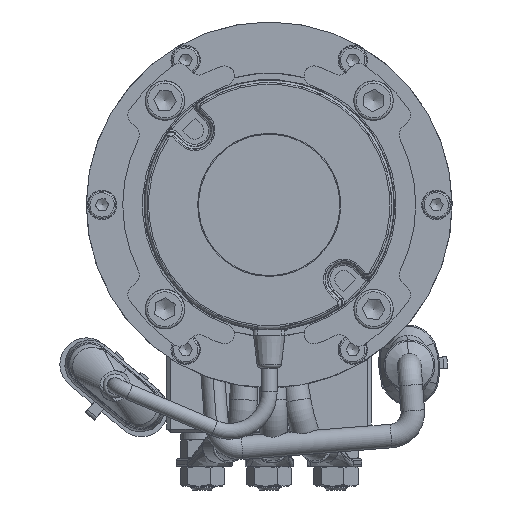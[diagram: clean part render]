
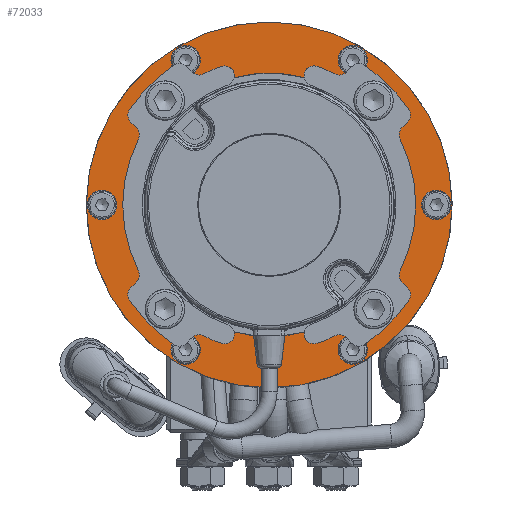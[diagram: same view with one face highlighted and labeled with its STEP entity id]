
A CAD part, left-side view. The second image highlights one B-rep face of the part: STEP entity #72033.
In plain terms, the highlighted planar face has unit normal (-1, 0, 0).
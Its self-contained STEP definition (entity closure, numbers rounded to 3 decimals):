
#825=FACE_BOUND('',#10804,.T.);
#826=FACE_BOUND('',#10805,.T.);
#827=FACE_BOUND('',#10806,.T.);
#828=FACE_BOUND('',#10807,.T.);
#829=FACE_BOUND('',#10808,.T.);
#830=FACE_BOUND('',#10809,.T.);
#831=FACE_BOUND('',#10810,.T.);
#832=FACE_BOUND('',#10811,.T.);
#833=FACE_BOUND('',#10812,.T.);
#834=FACE_BOUND('',#10813,.T.);
#835=FACE_BOUND('',#10814,.T.);
#2414=PLANE('',#78072);
#6624=FACE_OUTER_BOUND('',#10803,.T.);
#10803=EDGE_LOOP('',(#57789));
#10804=EDGE_LOOP('',(#57790));
#10805=EDGE_LOOP('',(#57791));
#10806=EDGE_LOOP('',(#57792));
#10807=EDGE_LOOP('',(#57793));
#10808=EDGE_LOOP('',(#57794));
#10809=EDGE_LOOP('',(#57795));
#10810=EDGE_LOOP('',(#57796));
#10811=EDGE_LOOP('',(#57797));
#10812=EDGE_LOOP('',(#57798));
#10813=EDGE_LOOP('',(#57799));
#10814=EDGE_LOOP('',(#57800));
#13140=CIRCLE('',#73917,3.);
#13273=CIRCLE('',#74276,3.);
#13406=CIRCLE('',#74635,3.);
#13587=CIRCLE('',#75043,33.5);
#15201=CIRCLE('',#78073,46.5);
#15202=CIRCLE('',#78074,3.);
#15203=CIRCLE('',#78075,3.75);
#15204=CIRCLE('',#78076,3.75);
#15205=CIRCLE('',#78077,3.75);
#15206=CIRCLE('',#78078,3.75);
#15207=CIRCLE('',#78079,3.75);
#15208=CIRCLE('',#78080,3.75);
#28457=VERTEX_POINT('',#103659);
#28843=VERTEX_POINT('',#104862);
#29229=VERTEX_POINT('',#106065);
#29728=VERTEX_POINT('',#107493);
#32272=VERTEX_POINT('',#126473);
#32273=VERTEX_POINT('',#126475);
#32274=VERTEX_POINT('',#126477);
#32275=VERTEX_POINT('',#126479);
#32276=VERTEX_POINT('',#126481);
#32277=VERTEX_POINT('',#126483);
#32278=VERTEX_POINT('',#126485);
#32279=VERTEX_POINT('',#126487);
#35244=EDGE_CURVE('',#28457,#28457,#13140,.T.);
#35821=EDGE_CURVE('',#28843,#28843,#13273,.T.);
#36398=EDGE_CURVE('',#29229,#29229,#13406,.T.);
#37087=EDGE_CURVE('',#29728,#29728,#13587,.T.);
#41187=EDGE_CURVE('',#32272,#32272,#15201,.T.);
#41188=EDGE_CURVE('',#32273,#32273,#15202,.T.);
#41189=EDGE_CURVE('',#32274,#32274,#15203,.T.);
#41190=EDGE_CURVE('',#32275,#32275,#15204,.T.);
#41191=EDGE_CURVE('',#32276,#32276,#15205,.T.);
#41192=EDGE_CURVE('',#32277,#32277,#15206,.T.);
#41193=EDGE_CURVE('',#32278,#32278,#15207,.T.);
#41194=EDGE_CURVE('',#32279,#32279,#15208,.T.);
#57789=ORIENTED_EDGE('',*,*,#41187,.T.);
#57790=ORIENTED_EDGE('',*,*,#35244,.T.);
#57791=ORIENTED_EDGE('',*,*,#35821,.T.);
#57792=ORIENTED_EDGE('',*,*,#36398,.T.);
#57793=ORIENTED_EDGE('',*,*,#41188,.T.);
#57794=ORIENTED_EDGE('',*,*,#41189,.T.);
#57795=ORIENTED_EDGE('',*,*,#41190,.T.);
#57796=ORIENTED_EDGE('',*,*,#41191,.T.);
#57797=ORIENTED_EDGE('',*,*,#41192,.T.);
#57798=ORIENTED_EDGE('',*,*,#41193,.T.);
#57799=ORIENTED_EDGE('',*,*,#41194,.T.);
#57800=ORIENTED_EDGE('',*,*,#37087,.F.);
#72033=ADVANCED_FACE('',(#6624,#825,#826,#827,#828,#829,#830,#831,#832,
#833,#834,#835),#2414,.T.);
#73917=AXIS2_PLACEMENT_3D('',#103660,#81745,#81746);
#74276=AXIS2_PLACEMENT_3D('',#104863,#82900,#82901);
#74635=AXIS2_PLACEMENT_3D('',#106066,#84055,#84056);
#75043=AXIS2_PLACEMENT_3D('',#107495,#85372,#85373);
#78072=AXIS2_PLACEMENT_3D('',#126472,#93192,#93193);
#78073=AXIS2_PLACEMENT_3D('',#126474,#93194,#93195);
#78074=AXIS2_PLACEMENT_3D('',#126476,#93196,#93197);
#78075=AXIS2_PLACEMENT_3D('',#126478,#93198,#93199);
#78076=AXIS2_PLACEMENT_3D('',#126480,#93200,#93201);
#78077=AXIS2_PLACEMENT_3D('',#126482,#93202,#93203);
#78078=AXIS2_PLACEMENT_3D('',#126484,#93204,#93205);
#78079=AXIS2_PLACEMENT_3D('',#126486,#93206,#93207);
#78080=AXIS2_PLACEMENT_3D('',#126488,#93208,#93209);
#81745=DIRECTION('center_axis',(1.,0.,0.));
#81746=DIRECTION('ref_axis',(0.,0.064,-0.998));
#82900=DIRECTION('center_axis',(1.,0.,0.));
#82901=DIRECTION('ref_axis',(0.,0.998,0.064));
#84055=DIRECTION('center_axis',(1.,0.,0.));
#84056=DIRECTION('ref_axis',(0.,-0.064,
0.998));
#85372=DIRECTION('center_axis',(-1.,0.,0.));
#85373=DIRECTION('ref_axis',(0.,-1.,0.));
#93192=DIRECTION('center_axis',(-1.,0.,0.));
#93193=DIRECTION('ref_axis',(0.,-1.,0.));
#93194=DIRECTION('center_axis',(-1.,0.,0.));
#93195=DIRECTION('ref_axis',(0.,-1.,0.));
#93196=DIRECTION('center_axis',(1.,0.,0.));
#93197=DIRECTION('ref_axis',(0.,-0.998,-0.064));
#93198=DIRECTION('center_axis',(1.,0.,0.));
#93199=DIRECTION('ref_axis',(0.,-0.5,-0.866));
#93200=DIRECTION('center_axis',(1.,0.,0.));
#93201=DIRECTION('ref_axis',(0.,0.5,-0.866));
#93202=DIRECTION('center_axis',(1.,0.,0.));
#93203=DIRECTION('ref_axis',(0.,1.,0.));
#93204=DIRECTION('center_axis',(1.,0.,0.));
#93205=DIRECTION('ref_axis',(0.,0.5,0.866));
#93206=DIRECTION('center_axis',(1.,0.,0.));
#93207=DIRECTION('ref_axis',(0.,-0.5,0.866));
#93208=DIRECTION('center_axis',(1.,0.,0.));
#93209=DIRECTION('ref_axis',(0.,-1.,0.));
#103659=CARTESIAN_POINT('',(14.206,26.325,29.51));
#103660=CARTESIAN_POINT('Origin',(14.206,26.517,26.517));
#104862=CARTESIAN_POINT('',(14.206,-29.51,26.325));
#104863=CARTESIAN_POINT('Origin',(14.206,-26.517,26.517));
#106065=CARTESIAN_POINT('',(14.206,-26.325,-29.51));
#106066=CARTESIAN_POINT('Origin',(14.206,-26.517,-26.517));
#107493=CARTESIAN_POINT('',(14.206,-23.688,23.688));
#107495=CARTESIAN_POINT('Origin',(14.206,0.,
0.));
#126472=CARTESIAN_POINT('Origin',(14.206,0.,
33.5));
#126473=CARTESIAN_POINT('',(14.206,0.,-46.5));
#126474=CARTESIAN_POINT('Origin',(14.206,0.,
0.));
#126475=CARTESIAN_POINT('',(14.206,29.51,-26.325));
#126476=CARTESIAN_POINT('Origin',(14.206,26.517,-26.517));
#126477=CARTESIAN_POINT('',(14.206,-19.375,40.054));
#126478=CARTESIAN_POINT('Origin',(14.206,-21.25,36.806));
#126479=CARTESIAN_POINT('',(14.206,-44.375,3.248));
#126480=CARTESIAN_POINT('Origin',(14.206,-42.5,0.));
#126481=CARTESIAN_POINT('',(14.206,-17.5,-36.806));
#126482=CARTESIAN_POINT('Origin',(14.206,-21.25,-36.806));
#126483=CARTESIAN_POINT('',(14.206,17.5,-36.806));
#126484=CARTESIAN_POINT('Origin',(14.206,21.25,-36.806));
#126485=CARTESIAN_POINT('',(14.206,44.375,-3.248));
#126486=CARTESIAN_POINT('Origin',(14.206,42.5,0.));
#126487=CARTESIAN_POINT('',(14.206,25.,36.806));
#126488=CARTESIAN_POINT('Origin',(14.206,21.25,36.806));
